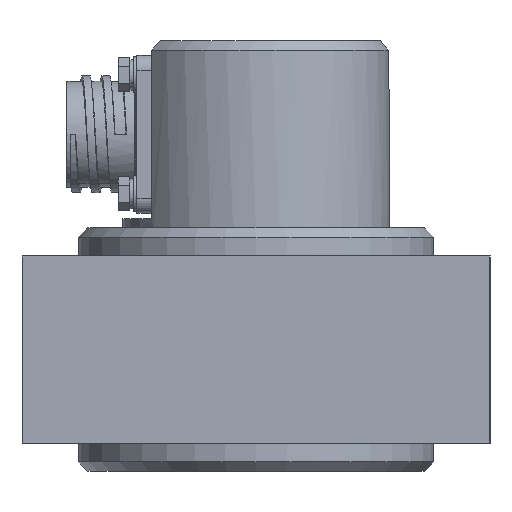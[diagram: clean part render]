
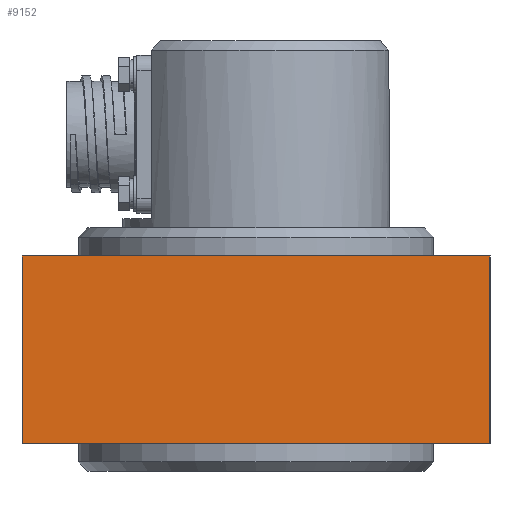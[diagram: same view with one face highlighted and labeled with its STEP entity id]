
A CAD part, left-side view. The second image highlights one B-rep face of the part: STEP entity #9152.
In plain terms, the highlighted planar face has unit normal (-1, 0, 0).
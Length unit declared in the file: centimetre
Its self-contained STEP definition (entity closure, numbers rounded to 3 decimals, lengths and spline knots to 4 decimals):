
#1484=VECTOR('',#15202,1.);
#1489=VECTOR('',#15216,1.);
#1493=VECTOR('',#15231,1.);
#1495=VECTOR('',#15235,1.);
#2094=LINE('',#10484,#1484);
#2099=LINE('',#10503,#1489);
#2103=LINE('',#10517,#1493);
#2105=LINE('',#10521,#1495);
#2709=PLANE('',#9701);
#3108=VERTEX_POINT('',#10485);
#3109=VERTEX_POINT('',#10486);
#3115=VERTEX_POINT('',#10501);
#3117=VERTEX_POINT('',#10504);
#4224=EDGE_CURVE('',#3108,#3109,#2094,.T.);
#4232=EDGE_CURVE('',#3117,#3115,#2099,.T.);
#4238=EDGE_CURVE('',#3108,#3115,#2103,.T.);
#4240=EDGE_CURVE('',#3109,#3117,#2105,.T.);
#5380=ORIENTED_EDGE('',*,*,#4232,.T.);
#5381=ORIENTED_EDGE('',*,*,#4238,.F.);
#5382=ORIENTED_EDGE('',*,*,#4224,.T.);
#5383=ORIENTED_EDGE('',*,*,#4240,.T.);
#7611=EDGE_LOOP('',(#5380,#5381,#5382,#5383));
#8387=FACE_BOUND('',#7611,.T.);
#9152=ADVANCED_FACE('',(#8387),#2709,.T.);
#9701=AXIS2_PLACEMENT_3D('',#10522,#15236,$);
#10484=CARTESIAN_POINT('',(-16.5,5.,0.));
#10485=CARTESIAN_POINT('',(-16.5,5.,0.));
#10486=CARTESIAN_POINT('',(-16.5,-5.,0.));
#10501=CARTESIAN_POINT('',(-16.5,5.,4.));
#10503=CARTESIAN_POINT('',(-16.5,5.,4.));
#10504=CARTESIAN_POINT('',(-16.5,-5.,4.));
#10517=CARTESIAN_POINT('',(-16.5,5.,0.));
#10521=CARTESIAN_POINT('',(-16.5,-5.,0.));
#10522=CARTESIAN_POINT('',(-16.5,0.,0.));
#15202=DIRECTION('',(0.,-1.,0.));
#15216=DIRECTION('',(0.,1.,0.));
#15231=DIRECTION('',(0.,0.,1.));
#15235=DIRECTION('',(0.,0.,1.));
#15236=DIRECTION('',(-1.,0.,0.));
